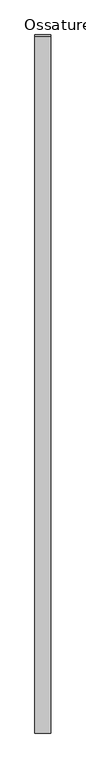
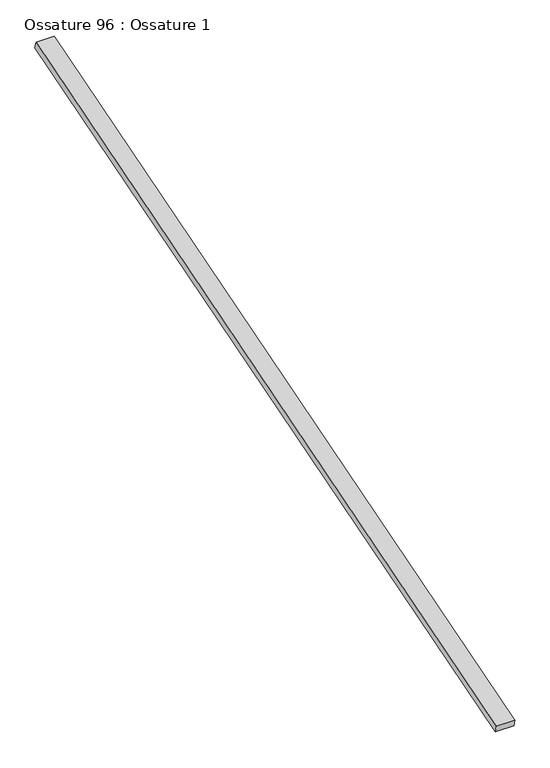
"""IFC4 building model written with IfcOpenShell, lengths in millimetres: beam geometry, Ossature 96 : Ossature 1."""

from ifc_helpers import new_model, si_unit, frame, origin, place, context, project, spatial, polyline, outline, extrude, source, transform, mapped, element, save


def ossature_96_ossature_1_e3075ac6(model_context):
    return source(origin(), model_context, "Body", "SweptSolid", [
        extrude(outline(polyline([(0.0, 0.0), (0.0, -4543.0299679), (-100.0, -4543.0299679), (-100.0, 0.0), (0.0, 0.0)])), frame((23144.4466393, -833.3913565, 8153.6336115), z_axis=(0.0, -0.28734788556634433, 0.9578262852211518), x_axis=(-1.0, 0.0, 0.0)), (0.0, 0.0, 1.0), 40.0),
    ])


if __name__ == "__main__":
    model = new_model("IFC4")
    model_context = context("Model", 3, world=origin())
    ifc_project = project(units=[si_unit("LENGTHUNIT", "METRE", prefix="MILLI")], contexts=[model_context])
    site = spatial("IfcSite", under=ifc_project)
    building = spatial("IfcBuilding", under=site)
    placement = place(None, origin())
    ossature_96_ossature_1_shape = ossature_96_ossature_1_e3075ac6(model_context)
    element("IfcBeam", 1, ObjectType="Ossature 96 : Ossature 1", at=placement, inside=building, context=model_context, shape_type="MappedRepresentation", body=[
        mapped(ossature_96_ossature_1_shape, transform((0.0, 0.0, 0.0), x_axis=(1.0, 0.0, 0.0), y_axis=(0.0, 1.0, 0.0), z_axis=(0.0, 0.0, 1.0))),
    ])
    save(model, "model.ifc")
